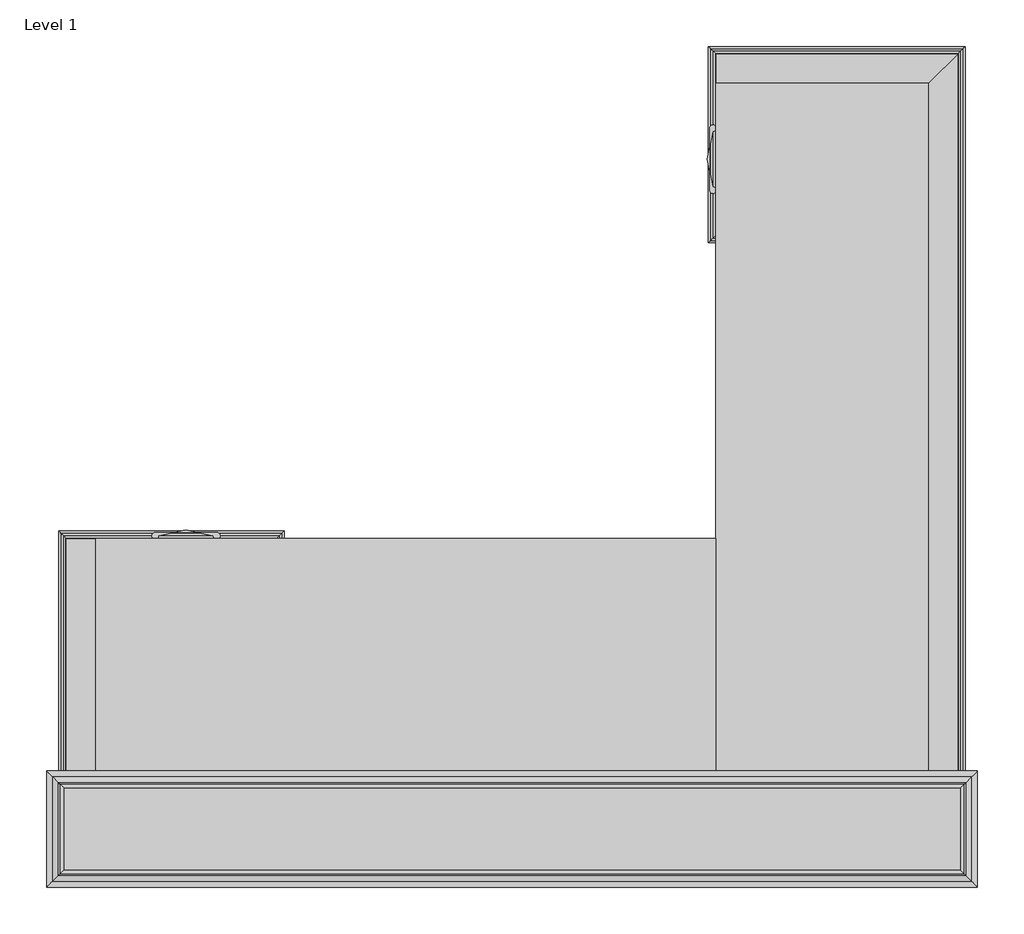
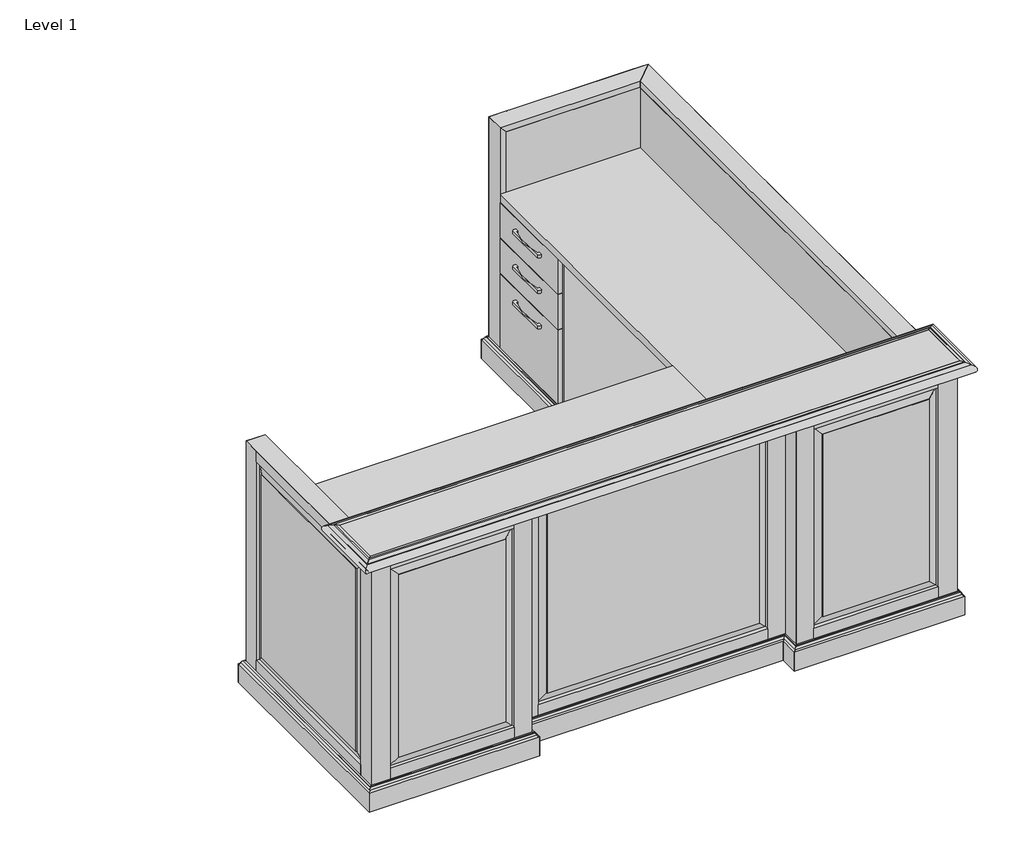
# One storey: 7 proxies.
"""IFC4 building model written with IfcOpenShell, lengths in millimetres."""

from ifc_helpers import new_model, si_unit, origin, place, context, project, spatial, transform, mapped, element, save
from components import generic_models_5fe2147b, generic_models_f68b7da0, generic_models_f616469e

model = new_model("IFC4")

# Units and contexts
model_context = context("Model", 3, world=origin())
ifc_project = project(units=[si_unit("LENGTHUNIT", "METRE", prefix="MILLI")], contexts=[model_context])

# Site, building, storey
site = spatial("IfcSite", under=ifc_project)
building = spatial("IfcBuilding", under=site)
storey = spatial("IfcBuildingStorey", under=building, Name="Level 1", Elevation=0.0)

# Proxies
placement = place(None, origin())
generic_models_shape = generic_models_5fe2147b(model_context)
element("IfcBuildingElementProxy", 1, Name="ART DECCO^GLAM-HAFELE 110_34_286", ObjectType="ART DECCO^GLAM-HAFELE 110_34_286", at=placement, inside=storey, context=model_context, shape_type="MappedRepresentation", body=[
    mapped(generic_models_shape, transform((404.325, -1270.0, 664.01875), x_axis=(-1.0, 0.0, 0.0), y_axis=(0.0, 0.0, -1.0), z_axis=(0.0, -1.0, 0.0))),
])
element("IfcBuildingElementProxy", 2, Name="ART DECCO^GLAM-HAFELE 110_34_286", ObjectType="ART DECCO^GLAM-HAFELE 110_34_286", at=placement, inside=storey, context=model_context, shape_type="MappedRepresentation", body=[
    mapped(generic_models_shape, transform((1701.8, -186.225, 514.396875), x_axis=(0.0, -1.0, 0.0), y_axis=(0.0, 0.0, -1.0), z_axis=(1.0, 0.0, 0.0))),
])
element("IfcBuildingElementProxy", 3, Name="ART DECCO^GLAM-HAFELE 110_34_286", ObjectType="ART DECCO^GLAM-HAFELE 110_34_286", at=placement, inside=storey, context=model_context, shape_type="MappedRepresentation", body=[
    mapped(generic_models_shape, transform((404.325, -1270.0, 364.775), x_axis=(-1.0, 0.0, 0.0), y_axis=(0.0, 0.0, -1.0), z_axis=(0.0, -1.0, 0.0))),
])
element("IfcBuildingElementProxy", 4, Name="ART DECCO^GLAM-HAFELE 110_34_286", ObjectType="ART DECCO^GLAM-HAFELE 110_34_286", at=placement, inside=storey, context=model_context, shape_type="MappedRepresentation", body=[
    mapped(generic_models_shape, transform((1701.8, -186.225, 364.775), x_axis=(0.0, -1.0, 0.0), y_axis=(0.0, 0.0, -1.0), z_axis=(1.0, 0.0, 0.0))),
])
element("IfcBuildingElementProxy", 5, Name="ART DECCO^GLAM-HAFELE 110_34_286", ObjectType="ART DECCO^GLAM-HAFELE 110_34_286", at=placement, inside=storey, context=model_context, shape_type="MappedRepresentation", body=[
    mapped(generic_models_shape, transform((404.325, -1270.0, 514.396875), x_axis=(-1.0, 0.0, 0.0), y_axis=(0.0, 0.0, -1.0), z_axis=(0.0, -1.0, 0.0))),
])
element("IfcBuildingElementProxy", 6, Name="ART DECCO^GLAM-HAFELE 110_34_286", ObjectType="ART DECCO^GLAM-HAFELE 110_34_286", at=placement, inside=storey, context=model_context, shape_type="MappedRepresentation", body=[
    mapped(generic_models_shape, transform((1701.8, -186.225, 664.01875), x_axis=(0.0, -1.0, 0.0), y_axis=(0.0, 0.0, -1.0), z_axis=(1.0, 0.0, 0.0))),
])
generic_models_2_shape = generic_models_f68b7da0(model_context)
generic_models_3_shape = generic_models_f616469e(model_context)
element("IfcBuildingElementProxy", 7, Name="CAMBRIDGE^ADMIN 2_L-SHAPE-PARTS SOLID", ObjectType="CAMBRIDGE^ADMIN 2_L-SHAPE-PARTS SOLID", at=placement, inside=storey, context=model_context, shape_type="MappedRepresentation", body=[
    mapped(generic_models_2_shape, transform((1701.8, -76.2, 996.95), x_axis=(1.0, 0.0, 0.0), y_axis=(0.0, 0.0, 1.0), z_axis=(0.0, -1.0, 0.0))),
    mapped(generic_models_3_shape, transform((1701.8, -76.2, 996.95), x_axis=(1.0, 0.0, 0.0), y_axis=(0.0, 0.0, 1.0), z_axis=(0.0, -1.0, 0.0))),
])

save(model, "model.ifc")
